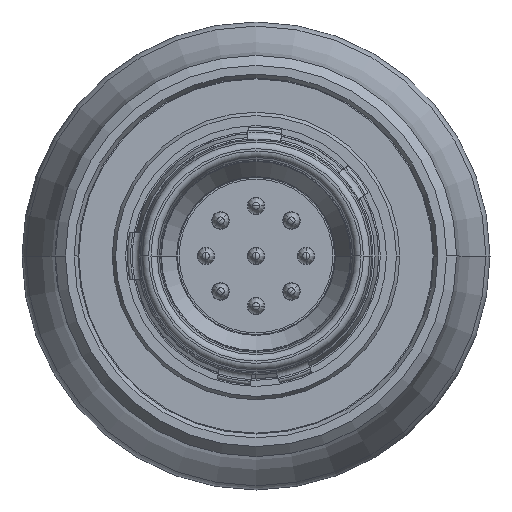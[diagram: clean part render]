
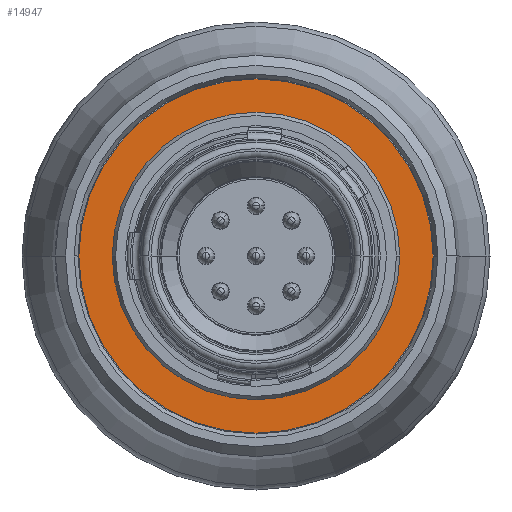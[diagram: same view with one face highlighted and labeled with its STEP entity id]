
A CAD part, left-side view. The second image highlights one B-rep face of the part: STEP entity #14947.
In plain terms, the highlighted planar face has unit normal (-1, 0, 0).
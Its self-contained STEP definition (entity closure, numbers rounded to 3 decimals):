
#1454=CARTESIAN_POINT('',(10.001,0.,0.));
#1455=DIRECTION('',(1.,0.,0.));
#1456=DIRECTION('',(0.,1.,0.));
#1457=AXIS2_PLACEMENT_3D('',#1454,#1455,#1456);
#1459=CARTESIAN_POINT('',(10.001,0.,0.));
#1460=DIRECTION('',(1.,0.,0.));
#1461=DIRECTION('',(0.,-1.,0.));
#1462=AXIS2_PLACEMENT_3D('',#1459,#1460,#1461);
#1464=CARTESIAN_POINT('',(10.001,0.,0.));
#1465=DIRECTION('',(-1.,0.,0.));
#1466=DIRECTION('',(0.,1.,0.));
#1467=AXIS2_PLACEMENT_3D('',#1464,#1465,#1466);
#1469=CARTESIAN_POINT('',(10.001,0.,0.));
#1470=DIRECTION('',(-1.,0.,0.));
#1471=DIRECTION('',(0.,-1.,0.));
#1472=AXIS2_PLACEMENT_3D('',#1469,#1470,#1471);
#10708=CARTESIAN_POINT('',(10.001,4.3,0.));
#10709=VERTEX_POINT('',#10708);
#10710=CARTESIAN_POINT('',(10.001,-4.3,0.));
#10711=VERTEX_POINT('',#10710);
#10714=CARTESIAN_POINT('',(10.001,5.3,0.));
#10715=CARTESIAN_POINT('',(10.001,-5.3,0.));
#10716=VERTEX_POINT('',#10714);
#10717=VERTEX_POINT('',#10715);
#14932=CARTESIAN_POINT('',(10.001,0.,0.));
#14933=DIRECTION('',(1.,0.,0.));
#14934=DIRECTION('',(0.,-1.,0.));
#14935=AXIS2_PLACEMENT_3D('',#14932,#14933,#14934);
#14936=PLANE('',#14935);
#14938=ORIENTED_EDGE('',*,*,#14937,.T.);
#14940=ORIENTED_EDGE('',*,*,#14939,.T.);
#14941=EDGE_LOOP('',(#14938,#14940));
#14942=FACE_OUTER_BOUND('',#14941,.F.);
#14943=ORIENTED_EDGE('',*,*,#14898,.T.);
#14944=ORIENTED_EDGE('',*,*,#14874,.T.);
#14945=EDGE_LOOP('',(#14943,#14944));
#14946=FACE_BOUND('',#14945,.F.);
#1458=CIRCLE('',#1457,5.3);
#1463=CIRCLE('',#1462,5.3);
#1468=CIRCLE('',#1467,4.3);
#1473=CIRCLE('',#1472,4.3);
#14874=EDGE_CURVE('',#10711,#10709,#1473,.T.);
#14898=EDGE_CURVE('',#10709,#10711,#1468,.T.);
#14937=EDGE_CURVE('',#10716,#10717,#1458,.T.);
#14939=EDGE_CURVE('',#10717,#10716,#1463,.T.);
#14947=ADVANCED_FACE('',(#14942,#14946),#14936,.F.);
